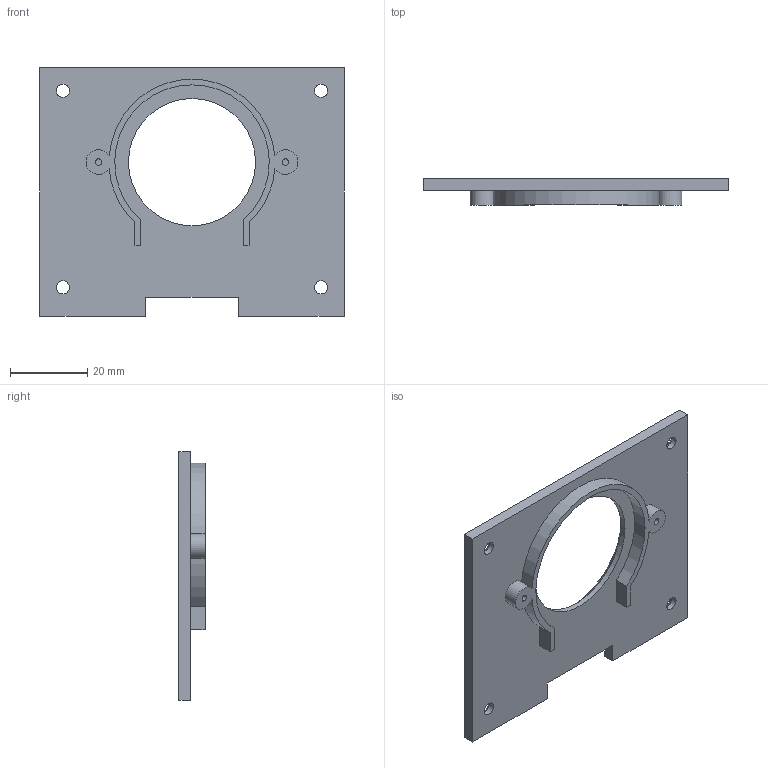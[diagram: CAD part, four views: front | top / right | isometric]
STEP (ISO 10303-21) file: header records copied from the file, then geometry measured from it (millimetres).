
FILE_DESCRIPTION(('Open CASCADE Model'),'2;1');
FILE_NAME('Open CASCADE Shape Model','2026-10-05T16:07:19',('Author'),( 'Open CASCADE'),'Open CASCADE STEP processor 7.9','Open CASCADE 7.9' ,'Unknown');
FILE_SCHEMA(('AUTOMOTIVE_DESIGN { 1 0 10303 214 1 1 1 1 }'));
Length unit declared in the file: millimetre
Products named in the file (1): Open CASCADE STEP translator 7.9 6
Bounding box: 79 x 6.8 x 64.5 mm (x, y, z)
Volume: 12923.6 mm3; surface area: 10410.6 mm2
Topology: 1 solids, 1 shells, 37 faces, 91 edges, 59 vertices
Faces by surface type: plane 19, cylinder 13, cone 5
Full cylindrical faces by diameter (mm): 1.7 x2, 3.4 x4, 33 x1
Entity records: 2277 total; most frequent: CARTESIAN_POINT 474, DIRECTION 316, ORIENTED_EDGE 182, PCURVE 182, DEFINITIONAL_REPRESENTATION 182, LINE 160, VECTOR 160, EDGE_CURVE 91
